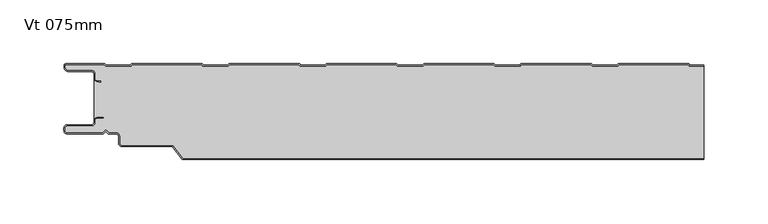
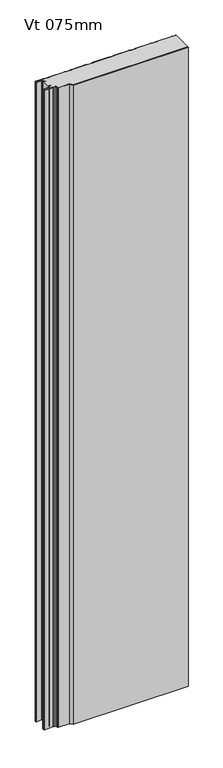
"""IFC4 building model written with IfcOpenShell, lengths in millimetres: plate geometry, KIP-MEX-KW-R19-CP-Vt-KW1_SL : Vt 075mm."""

from ifc_helpers import new_model, si_unit, point, frame_2d, origin, origin_with_axes, place, context, project, spatial, polyline, circle_curve, trimmed, segment, composite_curve, outline, extrude, source, transform, mapped, element, save


def vt_075mm_ebfdbd6b(model_context):
    return source(origin(), model_context, "Body", "SweptSolid", [
        extrude(outline(composite_curve([segment(polyline([(225.9039135, -2.1994992), (236.9739551, -2.1994992), (236.9739551, -74.0007512), (-170.3679967, -74.0007512), (-178.2758107, -63.8807501), (-218.2556822, -63.8807501)]), True, "CONTINUOUS"), segment(trimmed(circle_curve(frame_2d((-218.2060101, -62.3815743)), 1.4999984), [point((-218.2556822, -63.8807501))], [point((-219.7060085, -62.3815743))], False, "CARTESIAN"), True, "CONTINUOUS"), segment(polyline([(-219.7060085, -62.3815743), (-219.7060085, -56.8815682)]), True, "CONTINUOUS"), segment(trimmed(circle_curve(frame_2d((-222.7060141, -56.8815682)), 3.0000056), [point((-219.7060085, -56.8815682))], [point((-222.7060141, -53.8815626))], True, "CARTESIAN"), True, "CONTINUOUS"), segment(polyline([(-222.7060141, -53.8815626), (-228.2917754, -53.8815626), (-230.7060114, -51.4674051), (-233.1202474, -53.8817196), (-261.0062104, -53.8817196)]), True, "CONTINUOUS"), segment(trimmed(circle_curve(frame_2d((-261.0062104, -52.3814897)), 1.5002298), [point((-261.0062104, -53.8817196))], [point((-262.5064402, -52.3814897))], False, "CARTESIAN"), True, "CONTINUOUS"), segment(polyline([(-262.5064402, -52.3814897), (-262.5064402, -50.3983418)]), True, "CONTINUOUS"), segment(trimmed(circle_curve(frame_2d((-261.0055873, -50.3983418)), 1.5008529), [point((-262.5064402, -50.3983418))], [point((-261.0430722, -48.8979571))], False, "CARTESIAN"), True, "CONTINUOUS"), segment(polyline([(-261.0430722, -48.8979571), (-242.0059123, -48.8979571)]), True, "CONTINUOUS"), segment(trimmed(circle_curve(frame_2d((-242.0059123, -45.8966056)), 3.0013516), [point((-242.0059123, -48.8979571))], [point((-239.0056877, -45.8143642))], True, "CARTESIAN"), True, "CONTINUOUS"), segment(polyline([(-239.0056877, -45.8143642), (-239.0056877, -44.3893811)]), True, "CONTINUOUS"), segment(trimmed(circle_curve(frame_2d((-237.5051476, -44.3893811)), 1.5005402), [point((-239.0056877, -44.3893811))], [point((-237.5062722, -42.8888414))], False, "CARTESIAN"), True, "CONTINUOUS"), segment(polyline([(-237.5062722, -42.8888414), (-232.2480455, -42.8888414), (-232.2480455, -41.8719911), (-237.5115852, -41.8719911)]), True, "CONTINUOUS"), segment(trimmed(circle_curve(frame_2d((-237.5097191, -44.3622712)), 2.4902807), [point((-237.5115852, -41.8719911))], [point((-239.9999998, -44.3622712))], True, "CARTESIAN"), True, "CONTINUOUS"), segment(polyline([(-239.9999998, -44.3622712), (-239.9999998, -11.7956848)]), True, "CONTINUOUS"), segment(trimmed(circle_curve(frame_2d((-237.507267, -11.5959632)), 2.500721), [point((-239.9999998, -11.7956848))], [point((-237.9396711, -14.0590167))], True, "CARTESIAN"), True, "CONTINUOUS"), segment(polyline([(-237.9396711, -14.0590167), (-234.3973739, -14.6808886), (-234.2244628, -13.6959552), (-237.7667627, -13.0740827)]), True, "CONTINUOUS"), segment(trimmed(circle_curve(frame_2d((-237.5072716, -11.5959732)), 1.5007143), [point((-237.7667627, -13.0740827))], [point((-239.0079859, -11.5959732))], False, "CARTESIAN"), True, "CONTINUOUS"), segment(polyline([(-239.0079859, -11.5959732), (-239.0079859, -8.000131)]), True, "CONTINUOUS"), segment(trimmed(circle_curve(frame_2d((-242.0093089, -8.002219)), 3.0013237), [point((-239.0079859, -8.000131))], [point((-242.0093089, -5.0008953))], True, "CARTESIAN"), True, "CONTINUOUS"), segment(polyline([(-242.0093089, -5.0008953), (-260.0061347, -5.0008953)]), True, "CONTINUOUS"), segment(trimmed(circle_curve(frame_2d((-260.0061347, -2.5012654)), 2.4996299), [point((-260.0061347, -5.0008953))], [point((-262.5057646, -2.5012654))], False, "CARTESIAN"), True, "CONTINUOUS"), segment(polyline([(-262.5057646, -2.5012654), (-262.5057646, -1.0), (-232.0999194, -1.0), (-231.0133951, -2.1994992), (-211.0814168, -2.1994992), (-209.9948925, -1.0), (-155.9470346, -1.0), (-154.8605103, -2.1994992), (-134.928532, -2.1994992), (-133.8420077, -1.0), (-79.7941498, -1.0), (-78.7076256, -2.1994992), (-58.7756472, -2.1994992), (-57.689123, -1.0), (-3.6412651, -1.0), (-2.5547408, -2.1994992), (17.3772375, -2.1994992), (18.4637618, -1.0), (72.5116197, -1.0), (73.598144, -2.1994992), (93.5301223, -2.1994992), (94.6152208, -1.0), (148.6645044, -1.0), (149.7510287, -2.1994992), (169.683007, -2.1994992), (170.7695313, -1.0), (224.8173892, -1.0), (225.9039135, -2.1994992)]), True, "CONTINUOUS")], self_intersect=False)), origin_with_axes(), (0.0, 0.0, 1.0), 2400.0),
        extrude(outline(composite_curve([segment(polyline([(226.3473579, -1.1979254), (236.9739551, -1.1979254), (236.9739551, -2.1979254), (225.9039135, -2.1979254), (224.8173892, -0.9984262), (170.7695313, -0.9984262), (169.683007, -2.1979254), (149.7510287, -2.1979254), (148.6645044, -0.9984262), (94.6166466, -0.9984262), (93.5301223, -2.1979254), (73.598144, -2.1979254), (72.5116197, -0.9984262), (18.462336, -0.9984262), (17.3772375, -2.1979254), (-2.5547408, -2.1979254), (-3.6412651, -0.9984262), (-57.6905487, -0.9984262), (-58.7756472, -2.1979254), (-78.7076256, -2.1979254), (-79.7941498, -0.9984262), (-133.8434335, -0.9984262), (-134.928532, -2.1979254), (-154.8605103, -2.1979254), (-155.9470346, -0.9984262), (-209.9963182, -0.9984262), (-211.0814168, -2.1979254), (-231.0133951, -2.1979254), (-232.0999194, -0.9984262), (-262.5058795, -0.9984262), (-262.5058795, -2.4998352)]), True, "CONTINUOUS"), segment(trimmed(circle_curve(frame_2d((-260.0060773, -2.4998352)), 2.4998022), [point((-262.5058795, -2.4998352))], [point((-260.0060773, -4.9996374))], True, "CARTESIAN"), True, "CONTINUOUS"), segment(polyline([(-260.0060773, -4.9996374), (-242.0051314, -4.9996374)]), True, "CONTINUOUS"), segment(trimmed(circle_curve(frame_2d((-242.0051314, -8.0003457)), 3.0007082), [point((-242.0051314, -4.9996374))], [point((-239.0044239, -7.9982581))], False, "CARTESIAN"), True, "CONTINUOUS"), segment(polyline([(-239.0044239, -7.9982581), (-239.0044239, -11.5945268)]), True, "CONTINUOUS"), segment(trimmed(circle_curve(frame_2d((-237.504025, -11.5945268)), 1.5003989), [point((-239.0044239, -11.5945268))], [point((-237.7635333, -13.072313))], True, "CARTESIAN"), True, "CONTINUOUS"), segment(polyline([(-237.7635333, -13.072313), (-234.2214587, -13.694323), (-234.3944392, -14.679371), (-237.9367138, -14.0573259)]), True, "CONTINUOUS"), segment(trimmed(circle_curve(frame_2d((-237.5042133, -11.5944251)), 2.5005873), [point((-237.9367138, -14.0573259))], [point((-240.0048002, -11.5958995))], False, "CARTESIAN"), True, "CONTINUOUS"), segment(polyline([(-240.0048002, -11.5958995), (-240.0048002, -7.9987586)]), True, "CONTINUOUS"), segment(trimmed(circle_curve(frame_2d((-242.0053159, -8.0002578)), 2.0005162), [point((-240.0048002, -7.9987586))], [point((-242.0053159, -5.9997416))], True, "CARTESIAN"), True, "CONTINUOUS"), segment(polyline([(-242.0053159, -5.9997416), (-260.0060748, -5.9997416)]), True, "CONTINUOUS"), segment(trimmed(circle_curve(frame_2d((-260.0060748, -2.4998716)), 3.49987), [point((-260.0060748, -5.9997416))], [point((-263.5059449, -2.4998716))], False, "CARTESIAN"), True, "CONTINUOUS"), segment(polyline([(-263.5059449, -2.4998716), (-263.5059449, -1.4999879)]), True, "CONTINUOUS"), segment(trimmed(circle_curve(frame_2d((-262.0059812, -1.4999879)), 1.4999637), [point((-263.5059449, -1.4999879))], [point((-262.0059812, -2.42e-05))], False, "CARTESIAN"), True, "CONTINUOUS"), segment(polyline([(-262.0059812, -2.42e-05), (-231.6550494, -2.42e-05), (-230.5699507, -1.1979254), (-211.5248611, -1.1979254), (-210.4383368, 0.0), (-155.5021646, 0.0), (-154.4170659, -1.1979254), (-135.3719764, -1.1979254), (-134.2854521, 0.0), (-79.3492799, 0.0), (-78.2641812, -1.1979254), (-59.2190916, -1.1979254), (-58.1325673, 0.0), (-3.1963951, 0.0), (-2.1112964, -1.1979254), (16.9337932, -1.1979254), (18.0203174, 0.0), (72.9564896, 0.0), (74.0415883, -1.1979254), (93.0866779, -1.1979254), (94.1732022, 0.0), (149.1093744, 0.0), (150.1944731, -1.1979254), (169.2395627, -1.1979254), (170.326087, 0.0), (225.2622592, 0.0), (226.3473579, -1.1979254)]), True, "CONTINUOUS")], self_intersect=False)), origin_with_axes(), (0.0, 0.0, 1.0), 2400.0),
        extrude(outline(composite_curve([segment(polyline([(-170.3679967, -74.0), (236.9739551, -74.0), (236.9739551, -75.0), (-170.8556836, -75.0), (-178.7634976, -64.8799997), (-218.2556831, -64.8799997)]), True, "CONTINUOUS"), segment(trimmed(circle_curve(frame_2d((-218.2556831, -62.3800002)), 2.4999995), [point((-218.2556831, -64.8799997))], [point((-220.7556826, -62.3800002))], False, "CARTESIAN"), True, "CONTINUOUS"), segment(polyline([(-220.7556826, -62.3800002), (-220.7556826, -56.8799982)]), True, "CONTINUOUS"), segment(trimmed(circle_curve(frame_2d((-222.7556845, -56.8799982)), 2.0000019), [point((-220.7556826, -56.8799982))], [point((-222.7556845, -54.8799963))], True, "CARTESIAN"), True, "CONTINUOUS"), segment(polyline([(-222.7556845, -54.8799963), (-228.7556762, -54.8799963), (-230.7556836, -52.8800148), (-232.7556909, -54.8800481), (-261.0557492, -54.8800481)]), True, "CONTINUOUS"), segment(trimmed(circle_curve(frame_2d((-261.0557492, -52.3799723)), 2.5000758), [point((-261.0557492, -54.8800481))], [point((-263.555825, -52.3799723))], False, "CARTESIAN"), True, "CONTINUOUS"), segment(polyline([(-263.555825, -52.3799723), (-263.555825, -50.3973278)]), True, "CONTINUOUS"), segment(trimmed(circle_curve(frame_2d((-261.0555445, -50.3973278)), 2.5002804), [point((-263.555825, -50.3973278))], [point((-261.1039184, -47.8975153))], False, "CARTESIAN"), True, "CONTINUOUS"), segment(polyline([(-261.1039184, -47.8975153), (-242.0532981, -47.8975153)]), True, "CONTINUOUS"), segment(trimmed(circle_curve(frame_2d((-242.0532981, -45.8938887)), 2.0036267), [point((-242.0532981, -47.8975153))], [point((-240.049672, -45.8923871))], True, "CARTESIAN"), True, "CONTINUOUS"), segment(polyline([(-240.049672, -45.8923871), (-240.049672, -44.3606974)]), True, "CONTINUOUS"), segment(trimmed(circle_curve(frame_2d((-237.5593913, -44.3606974)), 2.4902807), [point((-240.049672, -44.3606974))], [point((-237.5612573, -41.8704173))], False, "CARTESIAN"), True, "CONTINUOUS"), segment(polyline([(-237.5612573, -41.8704173), (-232.2977177, -41.8704173), (-232.2977177, -42.8872675), (-237.5559443, -42.8872675)]), True, "CONTINUOUS"), segment(trimmed(circle_curve(frame_2d((-237.5548198, -44.3878073)), 1.5005402), [point((-237.5559443, -42.8872675))], [point((-239.0553599, -44.3878073))], True, "CARTESIAN"), True, "CONTINUOUS"), segment(polyline([(-239.0553599, -44.3878073), (-239.0553599, -45.8127904)]), True, "CONTINUOUS"), segment(trimmed(circle_curve(frame_2d((-242.0555845, -45.8950317)), 3.0013516), [point((-239.0553599, -45.8127904))], [point((-242.0555845, -48.8963833))], False, "CARTESIAN"), True, "CONTINUOUS"), segment(polyline([(-242.0555845, -48.8963833), (-261.0927444, -48.8963832)]), True, "CONTINUOUS"), segment(trimmed(circle_curve(frame_2d((-261.0552595, -50.396768)), 1.5008529), [point((-261.0927444, -48.8963832))], [point((-262.5561124, -50.396768))], True, "CARTESIAN"), True, "CONTINUOUS"), segment(polyline([(-262.5561124, -50.396768), (-262.5561124, -52.3799159)]), True, "CONTINUOUS"), segment(trimmed(circle_curve(frame_2d((-261.0558826, -52.3799159)), 1.5002298), [point((-262.5561124, -52.3799159))], [point((-261.0558826, -53.8801457))], True, "CARTESIAN"), True, "CONTINUOUS"), segment(polyline([(-261.0558826, -53.8801457), (-233.1699195, -53.8801457), (-230.7556836, -51.4658313), (-228.3414476, -53.8799888), (-222.7556863, -53.8799888)]), True, "CONTINUOUS"), segment(trimmed(circle_curve(frame_2d((-222.7556863, -56.8799944)), 3.0000057), [point((-222.7556863, -53.8799888))], [point((-219.7556807, -56.8799944))], False, "CARTESIAN"), True, "CONTINUOUS"), segment(polyline([(-219.7556807, -56.8799944), (-219.7556807, -62.3800005)]), True, "CONTINUOUS"), segment(trimmed(circle_curve(frame_2d((-218.2556822, -62.3800005)), 1.4999984), [point((-219.7556807, -62.3800005))], [point((-218.2556822, -63.8799989))], True, "CARTESIAN"), True, "CONTINUOUS"), segment(polyline([(-218.2556822, -63.8799989), (-178.2758107, -63.8799989), (-170.3679967, -74.0)]), True, "CONTINUOUS")], self_intersect=False)), origin_with_axes(), (0.0, 0.0, 1.0), 2400.0),
    ])


if __name__ == "__main__":
    model = new_model("IFC4")
    model_context = context("Model", 3, world=origin())
    ifc_project = project(units=[si_unit("LENGTHUNIT", "METRE", prefix="MILLI")], contexts=[model_context])
    site = spatial("IfcSite", under=ifc_project)
    building = spatial("IfcBuilding", under=site)
    placement = place(None, origin())
    vt_075mm_shape = vt_075mm_ebfdbd6b(model_context)
    element("IfcPlate", 1, ObjectType="KIP-MEX-KW-R19-CP-Vt-KW1_SL : Vt 075mm", at=placement, inside=building, context=model_context, shape_type="MappedRepresentation", body=[
        mapped(vt_075mm_shape, transform((0.0, 0.0, 0.0), x_axis=(1.0, 0.0, 0.0), y_axis=(0.0, 1.0, 0.0), z_axis=(0.0, 0.0, 1.0))),
    ])
    save(model, "model.ifc")
